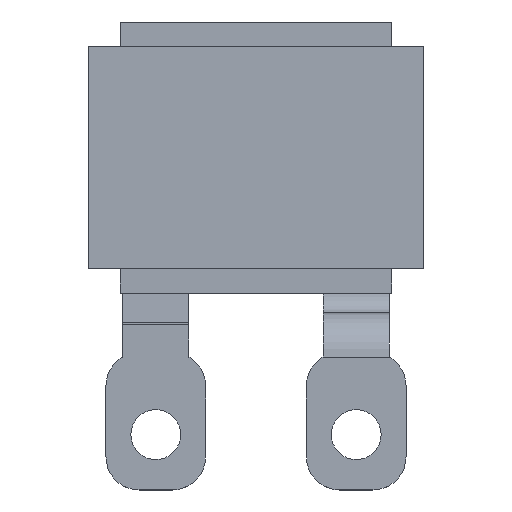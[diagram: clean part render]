
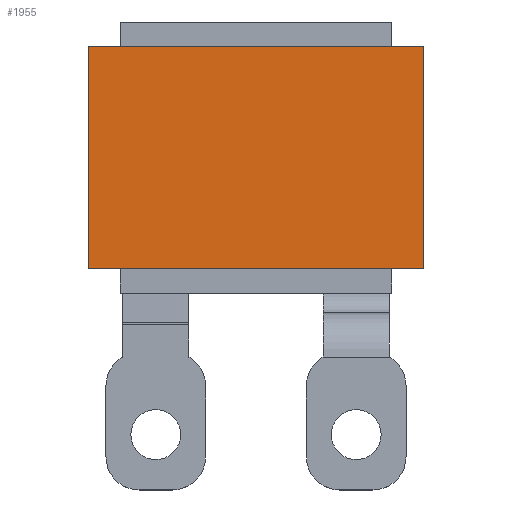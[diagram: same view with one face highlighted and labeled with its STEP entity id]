
A CAD part, top view. The second image highlights one B-rep face of the part: STEP entity #1955.
In plain terms, the highlighted planar face has unit normal (0, 0, 1).
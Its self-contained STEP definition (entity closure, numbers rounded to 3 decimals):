
#144=LINE('',#4577,#288);
#152=LINE('',#4592,#296);
#155=LINE('',#4598,#299);
#156=LINE('',#4600,#300);
#288=VECTOR('',#2381,1000.);
#296=VECTOR('',#2391,1000.);
#299=VECTOR('',#2398,1000.);
#300=VECTOR('',#2401,1000.);
#713=ORIENTED_EDGE('',*,*,#883,.T.);
#714=ORIENTED_EDGE('',*,*,#894,.F.);
#715=ORIENTED_EDGE('',*,*,#891,.F.);
#716=ORIENTED_EDGE('',*,*,#895,.T.);
#883=EDGE_CURVE('',#1024,#1023,#144,.T.);
#891=EDGE_CURVE('',#1029,#1030,#152,.T.);
#894=EDGE_CURVE('',#1030,#1023,#155,.T.);
#895=EDGE_CURVE('',#1029,#1024,#156,.T.);
#1023=VERTEX_POINT('',#4576);
#1024=VERTEX_POINT('',#4578);
#1029=VERTEX_POINT('',#4591);
#1030=VERTEX_POINT('',#4593);
#1176=EDGE_LOOP('',(#713,#714,#715,#716));
#1272=FACE_BOUND('',#1176,.T.);
#1325=PLANE('',#2076);
#1955=ADVANCED_FACE('',(#1272),#1325,.F.);
#2076=AXIS2_PLACEMENT_3D('',#4646,#2451,#2452);
#2381=DIRECTION('',(-1.,0.,0.));
#2391=DIRECTION('',(-1.,0.,0.));
#2398=DIRECTION('',(0.,1.,0.));
#2401=DIRECTION('',(0.,1.,0.));
#2451=DIRECTION('',(0.,0.,-1.));
#2452=DIRECTION('',(-1.,0.,0.));
#4576=CARTESIAN_POINT('',(-15.1,10.,21.7));
#4577=CARTESIAN_POINT('',(15.1,10.,21.7));
#4578=CARTESIAN_POINT('',(15.1,10.,21.7));
#4591=CARTESIAN_POINT('',(15.1,-10.,21.7));
#4592=CARTESIAN_POINT('',(15.1,-10.,21.7));
#4593=CARTESIAN_POINT('',(-15.1,-10.,21.7));
#4598=CARTESIAN_POINT('',(-15.1,-10.,21.7));
#4600=CARTESIAN_POINT('',(15.1,-10.,21.7));
#4646=CARTESIAN_POINT('',(15.1,-10.,21.7));
